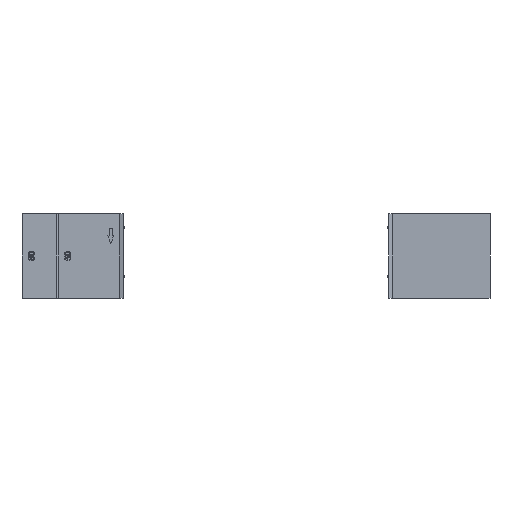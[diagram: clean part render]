
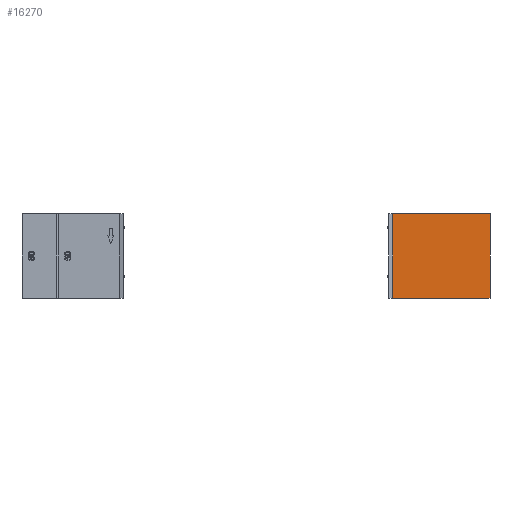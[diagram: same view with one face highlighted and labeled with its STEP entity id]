
A CAD part, left-side view. The second image highlights one B-rep face of the part: STEP entity #16270.
In plain terms, the highlighted planar face has unit normal (-1, 0, 0).
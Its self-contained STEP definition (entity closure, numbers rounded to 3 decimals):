
#84 = CARTESIAN_POINT ( 'NONE',  ( -38.5, -192., 17.3 ) ) ;
#1246 = EDGE_CURVE ( 'NONE', #26620, #2808, #11974, .T. ) ;
#1508 = DIRECTION ( 'NONE',  ( 0., 0., -1. ) ) ;
#2148 = VERTEX_POINT ( 'NONE', #6889 ) ;
#2625 = VECTOR ( 'NONE', #1508, 1000. ) ;
#2808 = VERTEX_POINT ( 'NONE', #84 ) ;
#2914 = VECTOR ( 'NONE', #25821, 1000. ) ;
#2972 = CARTESIAN_POINT ( 'NONE',  ( -38.5, -192., 86.3 ) ) ;
#4137 = CARTESIAN_POINT ( 'NONE',  ( -38.5, -192., 86.3 ) ) ;
#4961 = ORIENTED_EDGE ( 'NONE', *, *, #1246, .F. ) ;
#5717 = DIRECTION ( 'NONE',  ( 0., -1., 0. ) ) ;
#6889 = CARTESIAN_POINT ( 'NONE',  ( -38.5, -112., 86.3 ) ) ;
#6897 = EDGE_CURVE ( 'NONE', #2148, #20815, #25854, .T. ) ;
#9799 = CARTESIAN_POINT ( 'NONE',  ( -38.5, -112., 17.3 ) ) ;
#10170 = PLANE ( 'NONE',  #19338 ) ;
#11974 = LINE ( 'NONE', #2972, #16514 ) ;
#12095 = EDGE_CURVE ( 'NONE', #2148, #26620, #15483, .T. ) ;
#12409 = DIRECTION ( 'NONE',  ( 0., 1., 0. ) ) ;
#13886 = CARTESIAN_POINT ( 'NONE',  ( -38.5, -112., 86.3 ) ) ;
#15373 = CARTESIAN_POINT ( 'NONE',  ( -38.5, -192., 86.3 ) ) ;
#15483 = LINE ( 'NONE', #15373, #2914 ) ;
#16270 = ADVANCED_FACE ( 'NONE', ( #20996 ), #10170, .F. ) ;
#16402 = ORIENTED_EDGE ( 'NONE', *, *, #12095, .F. ) ;
#16514 = VECTOR ( 'NONE', #17400, 1000. ) ;
#16802 = VECTOR ( 'NONE', #5717, 1000. ) ;
#16974 = EDGE_CURVE ( 'NONE', #20815, #2808, #20639, .T. ) ;
#17373 = ORIENTED_EDGE ( 'NONE', *, *, #6897, .T. ) ;
#17400 = DIRECTION ( 'NONE',  ( 0., 0., -1. ) ) ;
#17447 = CARTESIAN_POINT ( 'NONE',  ( -38.5, -192., 86.3 ) ) ;
#19338 = AXIS2_PLACEMENT_3D ( 'NONE', #4137, #24763, #12409 ) ;
#19431 = CARTESIAN_POINT ( 'NONE',  ( -38.5, -192., 17.3 ) ) ;
#20042 = ORIENTED_EDGE ( 'NONE', *, *, #16974, .T. ) ;
#20639 = LINE ( 'NONE', #19431, #16802 ) ;
#20815 = VERTEX_POINT ( 'NONE', #9799 ) ;
#20996 = FACE_OUTER_BOUND ( 'NONE', #25751, .T. ) ;
#24763 = DIRECTION ( 'NONE',  ( 1., 0., 0. ) ) ;
#25751 = EDGE_LOOP ( 'NONE', ( #20042, #4961, #16402, #17373 ) ) ;
#25821 = DIRECTION ( 'NONE',  ( 0., -1., 0. ) ) ;
#25854 = LINE ( 'NONE', #13886, #2625 ) ;
#26620 = VERTEX_POINT ( 'NONE', #17447 ) ;
